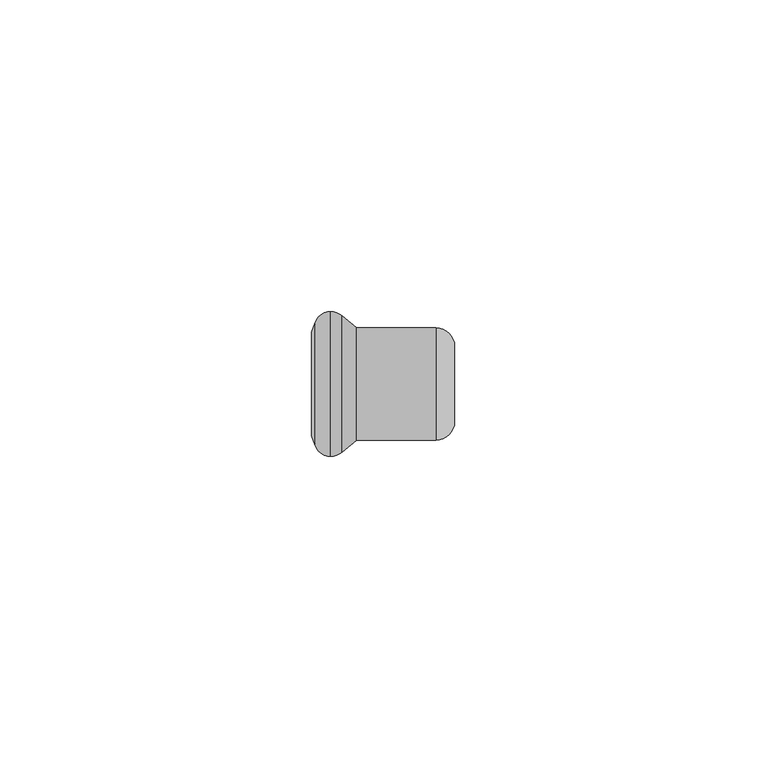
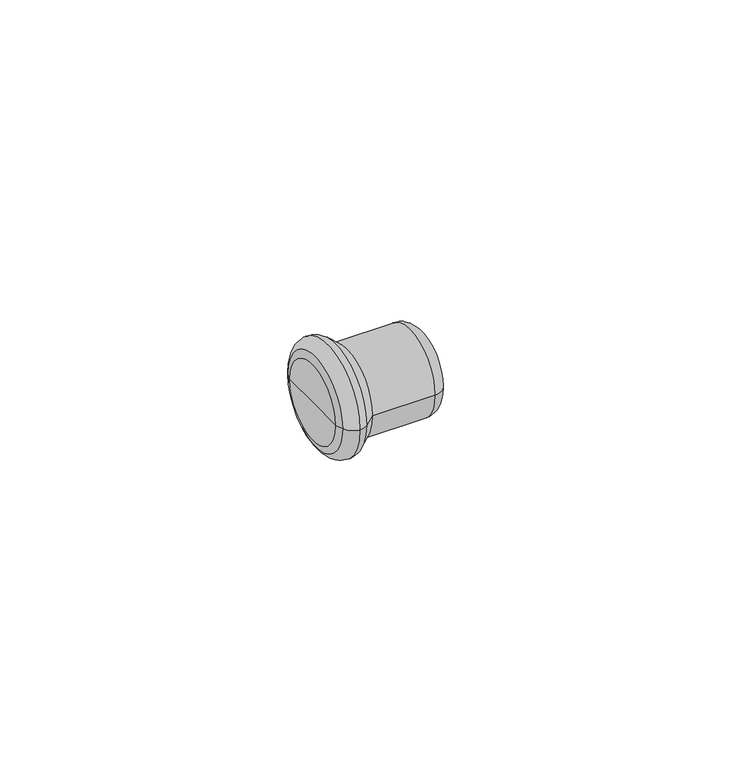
"""IFC4 building model written with IfcOpenShell, lengths in millimetres: pipe fitting geometry, KAN-therm Inox korek : KAN-therm Inox korek."""

from ifc_helpers import new_model, si_unit, point, frame, origin, place, context, project, spatial, polyline, circle_curve, ellipse_curve, trimmed, source, transform, mapped, element, save
from ifc_brep_helpers import plane_surface, cylinder_surface, revolved_surface, advanced_brep


def pipe_fitting_9ad364fa(model_context):
    return source(origin(), model_context, "Body", "AdvancedBrep", [
        advanced_brep(
        [(7.2161908, -9.0, 0.0), (7.2161908, 9.0, 0.0), (20.0, 9.0, 0.0), (20.0, -9.0, 0.0), (4.9077373, -10.9370225, 0.0), (4.9077373, 10.9370225, 0.0), (3.1078722, -11.625, 0.0), (3.1078722, 11.625, 0.0), (0.567948, -9.8484544, 0.0), (0.567948, 9.8484544, 0.0), (0.0, -8.2880302, 0.0), (0.0, 8.2880302, 0.0), (0.0, 0.0, 0.0), (23.0, -6.0, 0.0), (23.0, 6.0, 0.0), (23.0, 0.0, 0.0)],
        [
            (0, 1, circle_curve(frame((7.2161908, 0.0, 0.0), z_axis=(1.0, 0.0, 0.0), x_axis=(0.0, 1.0, 0.0)), 9.0)),
            (1, 2),
            (2, 3, circle_curve(frame((20.0, 0.0, 0.0), z_axis=(-1.0, 0.0, 0.0), x_axis=(0.0, 1.0, 0.0)), 9.0)),
            (3, 0),
            (1, 0, circle_curve(frame((7.2161908, 0.0, 0.0), z_axis=(1.0, 0.0, 0.0), x_axis=(0.0, 1.0, 0.0)), 9.0)),
            (3, 2, circle_curve(frame((20.0, 0.0, 0.0), z_axis=(-1.0, 0.0, 0.0), x_axis=(0.0, 1.0, 0.0)), 9.0)),
            (4, 5, circle_curve(frame((4.9077373, 0.0, 0.0), z_axis=(1.0, 0.0, 0.0), x_axis=(0.0, 1.0, 0.0)), 10.9370225)),
            (5, 1),
            (0, 4),
            (5, 4, circle_curve(frame((4.9077373, 0.0, 0.0), z_axis=(1.0, 0.0, 0.0), x_axis=(0.0, 1.0, 0.0)), 10.9370225)),
            (6, 7, circle_curve(frame((3.1078722, 0.0, 0.0), z_axis=(1.0, 0.0, 0.0), x_axis=(0.0, 1.0, 0.0)), 11.625)),
            (7, 5, circle_curve(frame((3.1064951, 8.9230333, 0.0), z_axis=(0.0, 0.0, -1.0), x_axis=(1.0, 0.0, 0.0)), 2.701967)),
            (4, 6, circle_curve(frame((3.1064951, -8.9230333, 0.0), z_axis=(0.0, 0.0, -1.0), x_axis=(1.0, 0.0, 0.0)), 2.701967)),
            (7, 6, circle_curve(frame((3.1078722, 0.0, 0.0), z_axis=(1.0, 0.0, 0.0), x_axis=(0.0, 1.0, 0.0)), 11.625)),
            (8, 9, circle_curve(frame((0.567948, 0.0, 0.0), z_axis=(1.0, 0.0, 0.0), x_axis=(0.0, 1.0, 0.0)), 9.8484544)),
            (9, 7, circle_curve(frame((3.10512, 8.9249993, 0.0), z_axis=(0.0, 0.0, -1.0), x_axis=(1.0, 0.0, 0.0)), 2.7000021)),
            (6, 8, circle_curve(frame((3.10512, -8.9249993, 0.0), z_axis=(0.0, 0.0, -1.0), x_axis=(1.0, 0.0, 0.0)), 2.7000021)),
            (9, 8, circle_curve(frame((0.567948, 0.0, 0.0), z_axis=(1.0, 0.0, 0.0), x_axis=(0.0, 1.0, 0.0)), 9.8484544)),
            (10, 11, circle_curve(frame((0.0, 0.0, 0.0), z_axis=(1.0, 0.0, 0.0), x_axis=(0.0, 1.0, 0.0)), 8.2880302)),
            (11, 9),
            (8, 10),
            (11, 10, circle_curve(frame((0.0, 0.0, 0.0), z_axis=(1.0, 0.0, 0.0), x_axis=(0.0, 1.0, 0.0)), 8.2880302)),
            (12, 11),
            (10, 12),
            (13, 14, circle_curve(frame((23.0, 0.0, 0.0), z_axis=(1.0, 0.0, 0.0), x_axis=(0.0, 1.0, 0.0)), 6.0)),
            (14, 15),
            (15, 13),
            (14, 13, circle_curve(frame((23.0, 0.0, 0.0), z_axis=(1.0, 0.0, 0.0), x_axis=(0.0, 1.0, 0.0)), 6.0)),
            (2, 14, circle_curve(frame((20.0, 6.0, 0.0), z_axis=(0.0, 0.0, -1.0), x_axis=(1.0, 0.0, 0.0)), 3.0)),
            (13, 3, circle_curve(frame((20.0, -6.0, 0.0), z_axis=(0.0, 0.0, -1.0), x_axis=(1.0, 0.0, 0.0)), 3.0)),
        ],
        [
            cylinder_surface(frame((1361.742668, 0.0, 0.0), z_axis=(-1.0, 0.0, 0.0), x_axis=(0.0, 1.0, 0.0)), 9.0),
            revolved_surface(polyline([(7.2161908, 9.0, 0.0), (4.9077373, 10.9370225, 0.0)]), (1361.742668, 0.0, 0.0), (-1.0, 0.0, 0.0)),
            revolved_surface(trimmed(ellipse_curve(frame((3.1064951, 8.9230333, 0.0), z_axis=(0.0, 0.0, 1.0), x_axis=(1.0, 0.0, 0.0)), 2.701967, 2.701967), [point((4.9077373, 10.9370225, 0.0))], [point((3.1078722, 11.625, 0.0))], True, "CARTESIAN"), (1361.742668, 0.0, 0.0), (-1.0, 0.0, 0.0)),
            revolved_surface(trimmed(ellipse_curve(frame((3.10512, 8.9249993, 0.0), z_axis=(0.0, 0.0, 1.0), x_axis=(1.0, 0.0, 0.0)), 2.7000021, 2.7000021), [point((3.1078722, 11.625, 0.0))], [point((0.567948, 9.8484544, 0.0))], True, "CARTESIAN"), (1361.742668, 0.0, 0.0), (-1.0, 0.0, 0.0)),
            revolved_surface(polyline([(0.567948, 9.8484544, 0.0), (0.0, 8.2880302, 0.0)]), (1361.742668, 0.0, 0.0), (-1.0, 0.0, 0.0)),
            plane_surface(frame((0.0, 0.0, 0.0), z_axis=(-1.0, 0.0, 0.0), x_axis=(0.0, 1.0, 0.0))),
            plane_surface(frame((23.0, 0.0, 0.0), z_axis=(1.0, 0.0, 0.0), x_axis=(0.0, 1.0, 0.0))),
            revolved_surface(trimmed(ellipse_curve(frame((20.0, 6.0, 0.0), z_axis=(0.0, 0.0, 1.0), x_axis=(1.0, 0.0, 0.0)), 3.0, 3.0), [point((23.0, 6.0, 0.0))], [point((20.0, 9.0, 0.0))], True, "CARTESIAN"), (1361.742668, 0.0, 0.0), (-1.0, 0.0, 0.0)),
        ],
        [
            (0, [[1, 2, 3, 4]]),
            (0, [[5, -4, 6, -2]]),
            (1, [[7, 8, -1, 9]]),
            (1, [[10, -9, -5, -8]]),
            (2, [[11, 12, -7, 13]]),
            (2, [[14, -13, -10, -12]]),
            (3, [[15, 16, -11, 17]]),
            (3, [[18, -17, -14, -16]]),
            (4, [[19, 20, -15, 21]]),
            (4, [[22, -21, -18, -20]]),
            (5, [[23, -19, 24]]),
            (5, [[-24, -22, -23]]),
            (6, [[25, 26, 27]]),
            (6, [[28, -27, -26]]),
            (7, [[-3, 29, -25, 30]]),
            (7, [[-6, -30, -28, -29]]),
        ],
    ),
    ])


if __name__ == "__main__":
    model = new_model("IFC4")
    model_context = context("Model", 3, world=origin())
    ifc_project = project(units=[si_unit("LENGTHUNIT", "METRE", prefix="MILLI")], contexts=[model_context])
    site = spatial("IfcSite", under=ifc_project)
    building = spatial("IfcBuilding", under=site)
    placement = place(None, origin())
    pipe_fitting_shape = pipe_fitting_9ad364fa(model_context)
    element("IfcPipeFitting", 1, ObjectType="KAN-therm Inox korek : KAN-therm Inox korek", at=placement, inside=building, context=model_context, shape_type="MappedRepresentation", body=[
        mapped(pipe_fitting_shape, transform((0.0, 0.0, 0.0), x_axis=(1.0, 0.0, 0.0), y_axis=(0.0, 1.0, 0.0), z_axis=(0.0, 0.0, 1.0))),
    ])
    save(model, "model.ifc")
